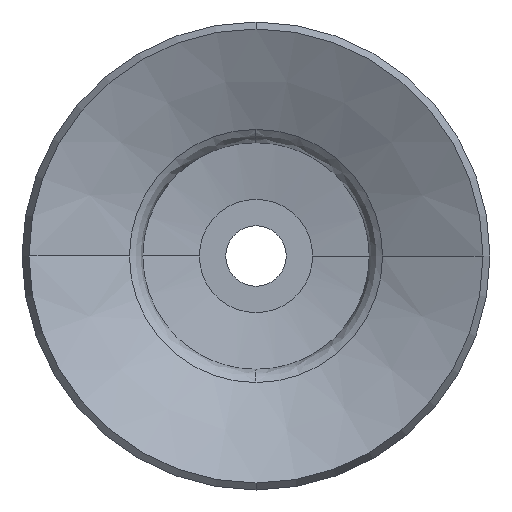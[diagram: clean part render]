
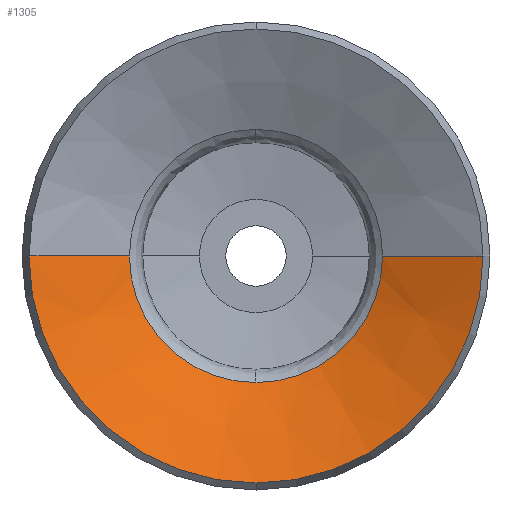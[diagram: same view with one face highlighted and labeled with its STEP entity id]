
A CAD part, front view. The second image highlights one B-rep face of the part: STEP entity #1305.
In plain terms, the highlighted conical face has half-angle 63.962 degrees and reference radius 16.767 mm.
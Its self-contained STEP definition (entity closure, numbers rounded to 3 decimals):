
#41 = LINE ( 'NONE', #277, #1575 ) ;
#42 = EDGE_LOOP ( 'NONE', ( #1689, #1684, #1666, #1644, #1593, #1573 ) ) ;
#88 = CARTESIAN_POINT ( 'NONE',  ( 16.767, -48.497, 0. ) ) ;
#99 = AXIS2_PLACEMENT_3D ( 'NONE', #1233, #285, #256 ) ;
#140 = CARTESIAN_POINT ( 'NONE',  ( 0., -48.497, 0. ) ) ;
#256 = DIRECTION ( 'NONE',  ( 0., 0., -1. ) ) ;
#277 = CARTESIAN_POINT ( 'NONE',  ( -16.767, -48.497, 0. ) ) ;
#282 = DIRECTION ( 'NONE',  ( -0.899, -0.439, 0. ) ) ;
#285 = DIRECTION ( 'NONE',  ( 0., 1., 0. ) ) ;
#289 = EDGE_CURVE ( 'NONE', #876, #871, #1554, .T. ) ;
#294 = DIRECTION ( 'NONE',  ( 0., 0., -1. ) ) ;
#374 = DIRECTION ( 'NONE',  ( 1., 0., 0. ) ) ;
#432 = EDGE_CURVE ( 'NONE', #1546, #1752, #1093, .T. ) ;
#544 = VERTEX_POINT ( 'NONE', #88 ) ;
#653 = AXIS2_PLACEMENT_3D ( 'NONE', #777, #799, #753 ) ;
#677 = CONICAL_SURFACE ( 'NONE', #1589, 16.767, 1.116 ) ;
#695 = DIRECTION ( 'NONE',  ( 0.899, -0.439, 0. ) ) ;
#710 = EDGE_CURVE ( 'NONE', #871, #1546, #41, .T. ) ;
#745 = CIRCLE ( 'NONE', #653, 30.078 ) ;
#753 = DIRECTION ( 'NONE',  ( -1., 0., 0. ) ) ;
#766 = DIRECTION ( 'NONE',  ( -1., 0., 0. ) ) ;
#777 = CARTESIAN_POINT ( 'NONE',  ( 0., -55., 0. ) ) ;
#780 = DIRECTION ( 'NONE',  ( 0., -1., 0. ) ) ;
#784 = CARTESIAN_POINT ( 'NONE',  ( 0., -55., 0. ) ) ;
#799 = DIRECTION ( 'NONE',  ( 0., -1., 0. ) ) ;
#813 = DIRECTION ( 'NONE',  ( 0., 1., 0. ) ) ;
#828 = CARTESIAN_POINT ( 'NONE',  ( 0., -48.497, 0. ) ) ;
#852 = CARTESIAN_POINT ( 'NONE',  ( 16.767, -48.497, 0. ) ) ;
#871 = VERTEX_POINT ( 'NONE', #1755 ) ;
#876 = VERTEX_POINT ( 'NONE', #1707 ) ;
#907 = AXIS2_PLACEMENT_3D ( 'NONE', #828, #813, #294 ) ;
#1054 = EDGE_CURVE ( 'NONE', #544, #876, #1358, .T. ) ;
#1076 = FACE_OUTER_BOUND ( 'NONE', #42, .T. ) ;
#1093 = CIRCLE ( 'NONE', #1620, 30.078 ) ;
#1137 = CARTESIAN_POINT ( 'NONE',  ( 0., -55., -30.078 ) ) ;
#1144 = DIRECTION ( 'NONE',  ( 0., -1., 0. ) ) ;
#1171 = EDGE_CURVE ( 'NONE', #544, #1396, #1708, .T. ) ;
#1216 = VECTOR ( 'NONE', #695, 1000. ) ;
#1233 = CARTESIAN_POINT ( 'NONE',  ( 0., -48.497, 0. ) ) ;
#1305 = ADVANCED_FACE ( 'NONE', ( #1076 ), #677, .F. ) ;
#1358 = CIRCLE ( 'NONE', #907, 16.767 ) ;
#1396 = VERTEX_POINT ( 'NONE', #1670 ) ;
#1546 = VERTEX_POINT ( 'NONE', #1699 ) ;
#1554 = CIRCLE ( 'NONE', #99, 16.767 ) ;
#1573 = ORIENTED_EDGE ( 'NONE', *, *, #1054, .T. ) ;
#1575 = VECTOR ( 'NONE', #282, 1000. ) ;
#1589 = AXIS2_PLACEMENT_3D ( 'NONE', #140, #1144, #374 ) ;
#1593 = ORIENTED_EDGE ( 'NONE', *, *, #1171, .F. ) ;
#1620 = AXIS2_PLACEMENT_3D ( 'NONE', #784, #780, #766 ) ;
#1644 = ORIENTED_EDGE ( 'NONE', *, *, #1840, .T. ) ;
#1666 = ORIENTED_EDGE ( 'NONE', *, *, #432, .T. ) ;
#1670 = CARTESIAN_POINT ( 'NONE',  ( 30.078, -55., 0. ) ) ;
#1684 = ORIENTED_EDGE ( 'NONE', *, *, #710, .T. ) ;
#1689 = ORIENTED_EDGE ( 'NONE', *, *, #289, .T. ) ;
#1699 = CARTESIAN_POINT ( 'NONE',  ( -30.078, -55., 0. ) ) ;
#1707 = CARTESIAN_POINT ( 'NONE',  ( 0., -48.497, -16.767 ) ) ;
#1708 = LINE ( 'NONE', #852, #1216 ) ;
#1752 = VERTEX_POINT ( 'NONE', #1137 ) ;
#1755 = CARTESIAN_POINT ( 'NONE',  ( -16.767, -48.497, 0. ) ) ;
#1840 = EDGE_CURVE ( 'NONE', #1752, #1396, #745, .T. ) ;
